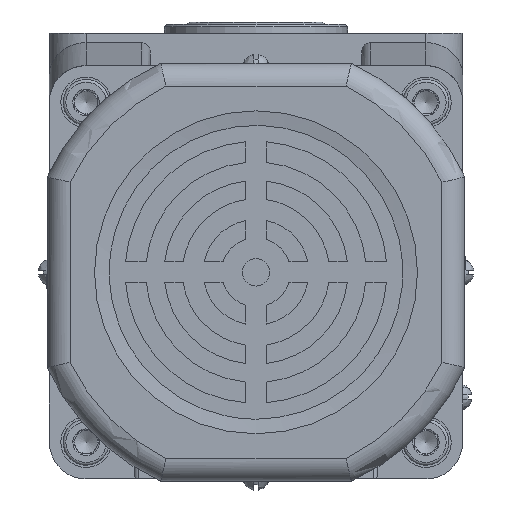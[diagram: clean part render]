
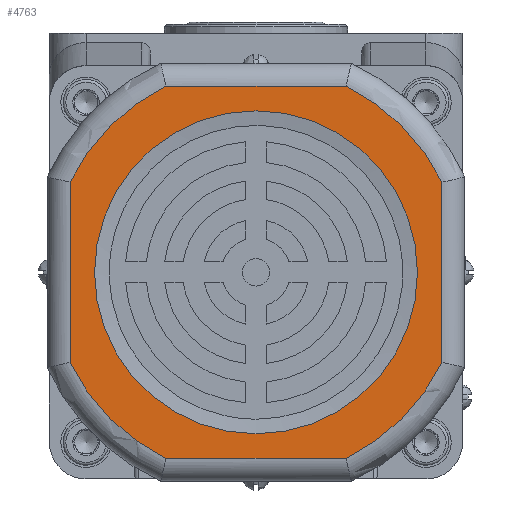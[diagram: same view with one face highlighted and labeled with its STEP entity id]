
A CAD part, front view. The second image highlights one B-rep face of the part: STEP entity #4763.
In plain terms, the highlighted planar face has unit normal (0, -1, 0).
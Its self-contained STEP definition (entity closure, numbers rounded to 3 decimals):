
#1302=LINE('',#22624,#2182);
#1304=LINE('',#22627,#2184);
#1306=LINE('',#22630,#2186);
#1309=LINE('',#22634,#2189);
#2182=VECTOR('',#18123,1.);
#2184=VECTOR('',#18127,1.);
#2186=VECTOR('',#18131,1.);
#2189=VECTOR('',#18136,1.);
#4763=ADVANCED_FACE('',(#5728,#5729),#5289,.F.);
#5289=PLANE('',#15181);
#5728=FACE_BOUND('',#6509,.T.);
#5729=FACE_BOUND('',#6510,.T.);
#6509=EDGE_LOOP('',(#9121,#9122,#9123,#9124,#9125,#9126,#9127,#9128));
#6510=EDGE_LOOP('',(#9129));
#9121=ORIENTED_EDGE('',*,*,#12657,.T.);
#9122=ORIENTED_EDGE('',*,*,#12647,.T.);
#9123=ORIENTED_EDGE('',*,*,#12654,.T.);
#9124=ORIENTED_EDGE('',*,*,#12643,.T.);
#9125=ORIENTED_EDGE('',*,*,#12652,.T.);
#9126=ORIENTED_EDGE('',*,*,#12639,.T.);
#9127=ORIENTED_EDGE('',*,*,#12650,.T.);
#9128=ORIENTED_EDGE('',*,*,#12635,.T.);
#9129=ORIENTED_EDGE('',*,*,#12695,.F.);
#11093=VERTEX_POINT('',#22512);
#11095=VERTEX_POINT('',#22515);
#11097=VERTEX_POINT('',#22543);
#11099=VERTEX_POINT('',#22546);
#11101=VERTEX_POINT('',#22574);
#11103=VERTEX_POINT('',#22577);
#11105=VERTEX_POINT('',#22605);
#11107=VERTEX_POINT('',#22608);
#11134=VERTEX_POINT('',#22910);
#12635=EDGE_CURVE('',#11095,#11093,#13795,.T.);
#12639=EDGE_CURVE('',#11099,#11097,#13797,.T.);
#12643=EDGE_CURVE('',#11103,#11101,#13799,.T.);
#12647=EDGE_CURVE('',#11107,#11105,#13801,.T.);
#12650=EDGE_CURVE('',#11097,#11095,#1302,.T.);
#12652=EDGE_CURVE('',#11101,#11099,#1304,.T.);
#12654=EDGE_CURVE('',#11105,#11103,#1306,.T.);
#12657=EDGE_CURVE('',#11093,#11107,#1309,.T.);
#12695=EDGE_CURVE('',#11134,#11134,#13803,.T.);
#13795=CIRCLE('',#15151,45.);
#13797=CIRCLE('',#15154,45.);
#13799=CIRCLE('',#15157,45.);
#13801=CIRCLE('',#15160,45.);
#13803=CIRCLE('',#15180,35.157);
#15151=AXIS2_PLACEMENT_3D('',#22514,#18099,#18100);
#15154=AXIS2_PLACEMENT_3D('',#22545,#18105,#18106);
#15157=AXIS2_PLACEMENT_3D('',#22576,#18111,#18112);
#15160=AXIS2_PLACEMENT_3D('',#22607,#18117,#18118);
#15180=AXIS2_PLACEMENT_3D('',#22909,#18189,#18190);
#15181=AXIS2_PLACEMENT_3D('',#22911,#18191,#18192);
#18099=DIRECTION('',(0.,-1.,0.));
#18100=DIRECTION('',(0.,0.,1.));
#18105=DIRECTION('',(0.,-1.,0.));
#18106=DIRECTION('',(0.,0.,1.));
#18111=DIRECTION('',(0.,-1.,0.));
#18112=DIRECTION('',(0.,0.,1.));
#18117=DIRECTION('',(0.,-1.,0.));
#18118=DIRECTION('',(0.,0.,1.));
#18123=DIRECTION('',(0.,0.,1.));
#18127=DIRECTION('',(1.,0.,0.));
#18131=DIRECTION('',(0.,0.,-1.));
#18136=DIRECTION('',(-1.,0.,0.));
#18189=DIRECTION('',(0.,-1.,0.));
#18190=DIRECTION('',(0.,0.,-1.));
#18191=DIRECTION('',(0.,1.,0.));
#18192=DIRECTION('',(0.,0.,1.));
#22512=CARTESIAN_POINT('',(19.615,-268.,-11.5));
#22514=CARTESIAN_POINT('',(0.,-268.,-52.));
#22515=CARTESIAN_POINT('',(40.5,-268.,-32.385));
#22543=CARTESIAN_POINT('',(40.5,-268.,-71.615));
#22545=CARTESIAN_POINT('',(0.,-268.,-52.));
#22546=CARTESIAN_POINT('',(19.615,-268.,-92.5));
#22574=CARTESIAN_POINT('',(-19.615,-268.,-92.5));
#22576=CARTESIAN_POINT('',(0.,-268.,-52.));
#22577=CARTESIAN_POINT('',(-40.5,-268.,-71.615));
#22605=CARTESIAN_POINT('',(-40.5,-268.,-32.385));
#22607=CARTESIAN_POINT('',(0.,-268.,-52.));
#22608=CARTESIAN_POINT('',(-19.615,-268.,-11.5));
#22624=CARTESIAN_POINT('',(40.5,-268.,-52.));
#22627=CARTESIAN_POINT('',(45.457,-268.,-92.5));
#22630=CARTESIAN_POINT('',(-40.5,-268.,-52.));
#22634=CARTESIAN_POINT('',(45.457,-268.,-11.5));
#22909=CARTESIAN_POINT('',(0.,-268.,-52.));
#22910=CARTESIAN_POINT('',(0.,-268.,-87.157));
#22911=CARTESIAN_POINT('',(45.457,-268.,-52.));
